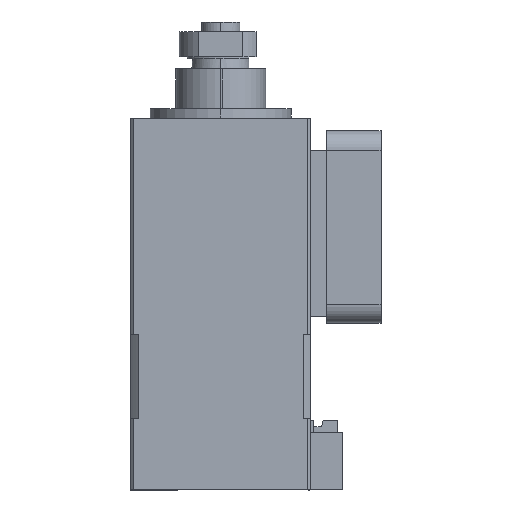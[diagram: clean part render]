
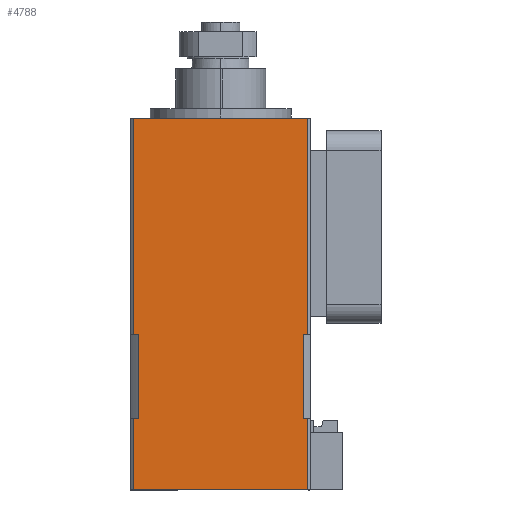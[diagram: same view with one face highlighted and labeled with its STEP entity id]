
A CAD part, left-side view. The second image highlights one B-rep face of the part: STEP entity #4788.
In plain terms, the highlighted planar face has unit normal (-1, 0, 0).
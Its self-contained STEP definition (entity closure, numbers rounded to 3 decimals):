
#5 = ORIENTED_EDGE ( 'NONE', *, *, #4536, .F. ) ;
#93 = CARTESIAN_POINT ( 'NONE',  ( -14., -13.574, -46.9 ) ) ;
#118 = ORIENTED_EDGE ( 'NONE', *, *, #3273, .T. ) ;
#123 = VECTOR ( 'NONE', #4318, 1000. ) ;
#144 = LINE ( 'NONE', #396, #2187 ) ;
#167 = LINE ( 'NONE', #3596, #2080 ) ;
#200 = VECTOR ( 'NONE', #4764, 1000. ) ;
#204 = EDGE_CURVE ( 'NONE', #3412, #559, #1763, .T. ) ;
#212 = CARTESIAN_POINT ( 'NONE',  ( -14., 13.574, -33.7 ) ) ;
#219 = VECTOR ( 'NONE', #2441, 1000. ) ;
#252 = EDGE_LOOP ( 'NONE', ( #1616, #3904, #4754, #1799, #2077, #5036, #118, #1138, #4068, #5, #1210, #3544 ) ) ;
#329 = EDGE_CURVE ( 'NONE', #2163, #1473, #2684, .T. ) ;
#340 = VERTEX_POINT ( 'NONE', #3869 ) ;
#396 = CARTESIAN_POINT ( 'NONE',  ( -14., -12.845, -48.65 ) ) ;
#422 = LINE ( 'NONE', #2660, #1792 ) ;
#464 = CARTESIAN_POINT ( 'NONE',  ( -14., -13.574, -5. ) ) ;
#559 = VERTEX_POINT ( 'NONE', #212 ) ;
#590 = VECTOR ( 'NONE', #1819, 1000. ) ;
#769 = EDGE_CURVE ( 'NONE', #1473, #2200, #3032, .T. ) ;
#901 = VERTEX_POINT ( 'NONE', #3783 ) ;
#1006 = VECTOR ( 'NONE', #3093, 1000. ) ;
#1084 = DIRECTION ( 'NONE',  ( 0., 0., -1. ) ) ;
#1138 = ORIENTED_EDGE ( 'NONE', *, *, #3228, .T. ) ;
#1150 = AXIS2_PLACEMENT_3D ( 'NONE', #2312, #1203, #4666 ) ;
#1203 = DIRECTION ( 'NONE',  ( -1., 0., 0. ) ) ;
#1210 = ORIENTED_EDGE ( 'NONE', *, *, #1446, .F. ) ;
#1294 = CARTESIAN_POINT ( 'NONE',  ( -14., 13.574, -5. ) ) ;
#1446 = EDGE_CURVE ( 'NONE', #3078, #340, #422, .T. ) ;
#1473 = VERTEX_POINT ( 'NONE', #2908 ) ;
#1507 = PLANE ( 'NONE',  #1150 ) ;
#1616 = ORIENTED_EDGE ( 'NONE', *, *, #1806, .F. ) ;
#1763 = LINE ( 'NONE', #1294, #219 ) ;
#1792 = VECTOR ( 'NONE', #1084, 1000. ) ;
#1799 = ORIENTED_EDGE ( 'NONE', *, *, #2293, .F. ) ;
#1806 = EDGE_CURVE ( 'NONE', #2163, #4006, #144, .T. ) ;
#1819 = DIRECTION ( 'NONE',  ( 0., 1., 0. ) ) ;
#1913 = CARTESIAN_POINT ( 'NONE',  ( -14., 13.574, -33.7 ) ) ;
#1939 = LINE ( 'NONE', #3873, #2859 ) ;
#1941 = VERTEX_POINT ( 'NONE', #3373 ) ;
#1979 = EDGE_CURVE ( 'NONE', #559, #1941, #2012, .T. ) ;
#1993 = CARTESIAN_POINT ( 'NONE',  ( -14., 13.574, -46.9 ) ) ;
#2012 = LINE ( 'NONE', #2108, #3958 ) ;
#2032 = LINE ( 'NONE', #4943, #2146 ) ;
#2077 = ORIENTED_EDGE ( 'NONE', *, *, #204, .T. ) ;
#2080 = VECTOR ( 'NONE', #3197, 1000. ) ;
#2108 = CARTESIAN_POINT ( 'NONE',  ( -14., 13.574, -33.7 ) ) ;
#2146 = VECTOR ( 'NONE', #2517, 1000. ) ;
#2163 = VERTEX_POINT ( 'NONE', #3866 ) ;
#2187 = VECTOR ( 'NONE', #2338, 1000. ) ;
#2200 = VERTEX_POINT ( 'NONE', #4264 ) ;
#2293 = EDGE_CURVE ( 'NONE', #3412, #2200, #1939, .T. ) ;
#2312 = CARTESIAN_POINT ( 'NONE',  ( -14., -14., -5. ) ) ;
#2338 = DIRECTION ( 'NONE',  ( 0., 0., -1. ) ) ;
#2441 = DIRECTION ( 'NONE',  ( 0., 0., -1. ) ) ;
#2517 = DIRECTION ( 'NONE',  ( 0., 0., -1. ) ) ;
#2531 = VECTOR ( 'NONE', #2916, 1000. ) ;
#2660 = CARTESIAN_POINT ( 'NONE',  ( -14., -13.574, -46.9 ) ) ;
#2684 = LINE ( 'NONE', #1913, #1006 ) ;
#2715 = CARTESIAN_POINT ( 'NONE',  ( -14., 12.845, -46.9 ) ) ;
#2859 = VECTOR ( 'NONE', #4151, 1000. ) ;
#2908 = CARTESIAN_POINT ( 'NONE',  ( -14., -13.574, -33.7 ) ) ;
#2916 = DIRECTION ( 'NONE',  ( 0., 1., 0. ) ) ;
#2991 = EDGE_CURVE ( 'NONE', #3078, #4006, #4134, .T. ) ;
#3032 = LINE ( 'NONE', #464, #200 ) ;
#3078 = VERTEX_POINT ( 'NONE', #93 ) ;
#3087 = EDGE_CURVE ( 'NONE', #901, #3136, #167, .T. ) ;
#3093 = DIRECTION ( 'NONE',  ( 0., -1., 0. ) ) ;
#3126 = CARTESIAN_POINT ( 'NONE',  ( -14., -12.845, -46.9 ) ) ;
#3136 = VERTEX_POINT ( 'NONE', #4109 ) ;
#3197 = DIRECTION ( 'NONE',  ( 0., 0., -1. ) ) ;
#3228 = EDGE_CURVE ( 'NONE', #3899, #901, #4999, .T. ) ;
#3273 = EDGE_CURVE ( 'NONE', #1941, #3899, #2032, .T. ) ;
#3358 = CARTESIAN_POINT ( 'NONE',  ( -14., 13.574, -46.9 ) ) ;
#3373 = CARTESIAN_POINT ( 'NONE',  ( -14., 12.845, -33.7 ) ) ;
#3412 = VERTEX_POINT ( 'NONE', #4742 ) ;
#3544 = ORIENTED_EDGE ( 'NONE', *, *, #2991, .T. ) ;
#3596 = CARTESIAN_POINT ( 'NONE',  ( -14., 13.574, -46.9 ) ) ;
#3640 = CARTESIAN_POINT ( 'NONE',  ( -14., 13.574, -58. ) ) ;
#3777 = LINE ( 'NONE', #3640, #590 ) ;
#3783 = CARTESIAN_POINT ( 'NONE',  ( -14., 13.574, -46.9 ) ) ;
#3866 = CARTESIAN_POINT ( 'NONE',  ( -14., -12.845, -33.7 ) ) ;
#3869 = CARTESIAN_POINT ( 'NONE',  ( -14., -13.574, -58. ) ) ;
#3873 = CARTESIAN_POINT ( 'NONE',  ( -14., -14., 0. ) ) ;
#3899 = VERTEX_POINT ( 'NONE', #2715 ) ;
#3904 = ORIENTED_EDGE ( 'NONE', *, *, #329, .T. ) ;
#3958 = VECTOR ( 'NONE', #4995, 1000. ) ;
#4006 = VERTEX_POINT ( 'NONE', #3126 ) ;
#4068 = ORIENTED_EDGE ( 'NONE', *, *, #3087, .T. ) ;
#4109 = CARTESIAN_POINT ( 'NONE',  ( -14., 13.574, -58. ) ) ;
#4130 = FACE_OUTER_BOUND ( 'NONE', #252, .T. ) ;
#4134 = LINE ( 'NONE', #1993, #123 ) ;
#4151 = DIRECTION ( 'NONE',  ( 0., -1., 0. ) ) ;
#4264 = CARTESIAN_POINT ( 'NONE',  ( -14., -13.574, 0. ) ) ;
#4318 = DIRECTION ( 'NONE',  ( 0., 1., 0. ) ) ;
#4536 = EDGE_CURVE ( 'NONE', #340, #3136, #3777, .T. ) ;
#4666 = DIRECTION ( 'NONE',  ( 0., 0., 1. ) ) ;
#4742 = CARTESIAN_POINT ( 'NONE',  ( -14., 13.574, 0. ) ) ;
#4754 = ORIENTED_EDGE ( 'NONE', *, *, #769, .T. ) ;
#4764 = DIRECTION ( 'NONE',  ( 0., 0., 1. ) ) ;
#4788 = ADVANCED_FACE ( 'NONE', ( #4130 ), #1507, .T. ) ;
#4943 = CARTESIAN_POINT ( 'NONE',  ( -14., 12.845, -48.65 ) ) ;
#4995 = DIRECTION ( 'NONE',  ( 0., -1., 0. ) ) ;
#4999 = LINE ( 'NONE', #3358, #2531 ) ;
#5036 = ORIENTED_EDGE ( 'NONE', *, *, #1979, .T. ) ;
